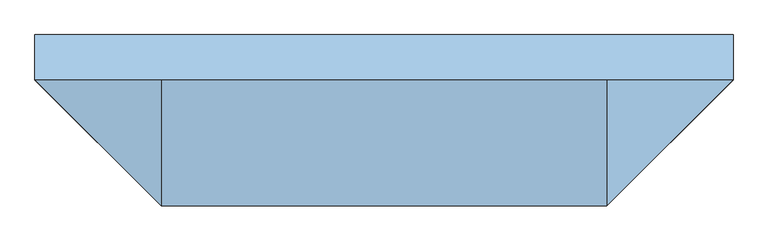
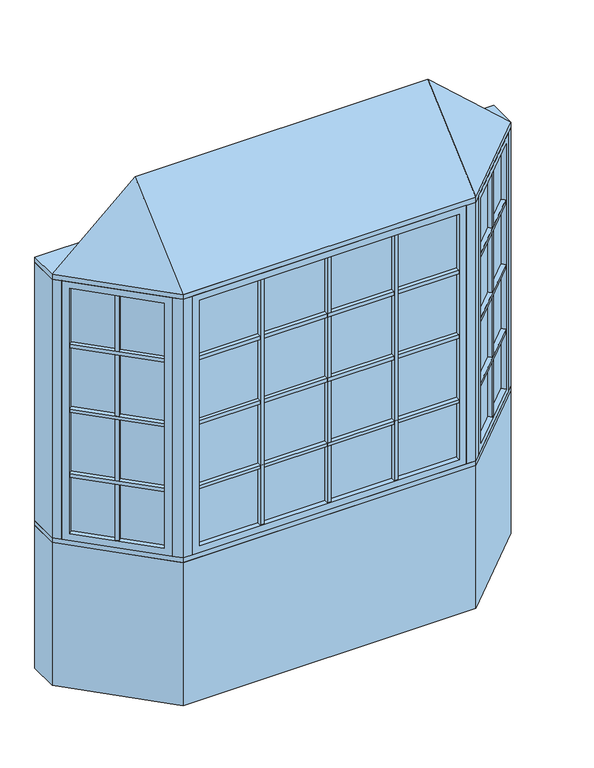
"""IFC4 building model written with IfcOpenShell, lengths in millimetres: window geometry, Pollard_Windows_Tudor Casement Bows and Bays : AML-BAY 45 AFR0614-12-500_GC."""

from ifc_helpers import new_model, si_unit, frame, origin, origin_with_axes, place, context, project, spatial, polyline, outline, extrude, faceted_brep, source, transform, mapped, element, save


def window_6308ce5a(model_context):
    return source(origin(), model_context, "Body", "SolidModel", [
        extrude(outline(polyline([(809.3614193, -437.1108753), (793.8050701, -421.5545261), (1101.616171, -113.7434252), (1117.1725202, -129.2997743), (809.3614193, -437.1108753)])), frame((0.0, 0.0, 1490.998), z_axis=(0.0, 0.0, 1.0), x_axis=(1.0, 0.0, 0.0)), (0.0, 0.0, 1.0), 18.0),
        extrude(outline(polyline([(790.2129677, -417.9624236), (774.6566185, -402.4060744), (1082.4677194, -94.5949735), (1098.0240686, -110.1513227), (790.2129677, -417.9624236)])), frame((0.0, 0.0, 1490.998), z_axis=(0.0, 0.0, 1.0), x_axis=(1.0, 0.0, 0.0)), (0.0, 0.0, 1.0), 18.0),
        extrude(outline(polyline([(809.3614193, -437.1108753), (793.8050701, -421.5545261), (1101.616171, -113.7434252), (1117.1725202, -129.2997743), (809.3614193, -437.1108753)])), frame((0.0, 0.0, 1140.998), z_axis=(0.0, 0.0, 1.0), x_axis=(1.0, 0.0, 0.0)), (0.0, 0.0, 1.0), 18.0),
        extrude(outline(polyline([(790.2129677, -417.9624236), (774.6566185, -402.4060744), (1082.4677194, -94.5949735), (1098.0240686, -110.1513227), (790.2129677, -417.9624236)])), frame((0.0, 0.0, 1140.998), z_axis=(0.0, 0.0, 1.0), x_axis=(1.0, 0.0, 0.0)), (0.0, 0.0, 1.0), 18.0),
        extrude(outline(polyline([(809.3614193, -437.1108753), (793.8050701, -421.5545261), (1101.616171, -113.7434252), (1117.1725202, -129.2997743), (809.3614193, -437.1108753)])), frame((0.0, 0.0, 1490.998), z_axis=(0.0, 0.0, 1.0), x_axis=(1.0, 0.0, 0.0)), (0.0, 0.0, 1.0), 18.0),
        extrude(outline(polyline([(790.2129677, -417.9624236), (774.6566185, -402.4060744), (1082.4677194, -94.5949735), (1098.0240686, -110.1513227), (790.2129677, -417.9624236)])), frame((0.0, 0.0, 1490.998), z_axis=(0.0, 0.0, 1.0), x_axis=(1.0, 0.0, 0.0)), (0.0, 0.0, 1.0), 18.0),
        extrude(outline(polyline([(809.3614193, -437.1108753), (793.8050701, -421.5545261), (1101.616171, -113.7434252), (1117.1725202, -129.2997743), (809.3614193, -437.1108753)])), frame((0.0, 0.0, 1490.998), z_axis=(0.0, 0.0, 1.0), x_axis=(1.0, 0.0, 0.0)), (0.0, 0.0, 1.0), 18.0),
        extrude(outline(polyline([(790.2129677, -417.9624236), (774.6566185, -402.4060744), (1082.4677194, -94.5949735), (1098.0240686, -110.1513227), (790.2129677, -417.9624236)])), frame((0.0, 0.0, 1490.998), z_axis=(0.0, 0.0, 1.0), x_axis=(1.0, 0.0, 0.0)), (0.0, 0.0, 1.0), 18.0),
        extrude(outline(polyline([(809.3614193, -437.1108753), (793.8050701, -421.5545261), (1101.616171, -113.7434252), (1117.1725202, -129.2997743), (809.3614193, -437.1108753)])), frame((0.0, 0.0, 1840.998), z_axis=(0.0, 0.0, 1.0), x_axis=(1.0, 0.0, 0.0)), (0.0, 0.0, 1.0), 18.0),
        extrude(outline(polyline([(790.2129677, -417.9624236), (774.6566185, -402.4060744), (1082.4677194, -94.5949735), (1098.0240686, -110.1513227), (790.2129677, -417.9624236)])), frame((0.0, 0.0, 1840.998), z_axis=(0.0, 0.0, 1.0), x_axis=(1.0, 0.0, 0.0)), (0.0, 0.0, 1.0), 18.0),
        extrude(outline(polyline([(954.0745816, -261.2850146), (969.6309308, -276.8413638), (956.9030087, -289.5692858), (941.3466595, -274.0129366), (954.0745816, -261.2850146)])), frame((0.0, 0.0, 835.8628), z_axis=(0.0, 0.0, 1.0), x_axis=(1.0, 0.0, 0.0)), (0.0, 0.0, 1.0), 1328.2704),
        extrude(outline(polyline([(950.4824791, -257.6929121), (937.7545571, -270.4208342), (922.1982079, -254.864485), (934.92613, -242.1365629), (950.4824791, -257.6929121)])), frame((0.0, 0.0, 835.8628), z_axis=(0.0, 0.0, 1.0), x_axis=(1.0, 0.0, 0.0)), (0.0, 0.0, 1.0), 1328.2704),
        extrude(outline(polyline([(1110.5964271, -104.763169), (784.824814, -430.5347822), (781.2327115, -426.9426797), (1107.0043247, -101.1710666), (1110.5964271, -104.763169)])), frame((0.0, 0.0, 823.1628), z_axis=(0.0, 0.0, 1.0), x_axis=(1.0, 0.0, 0.0)), (0.0, 0.0, 1.0), 1353.6704),
        faceted_brep([(1101.616171, -113.7434252, 835.8628), (1119.5766833, -131.7039374, 835.8628), (1119.5766833, -131.7039374, 2164.1332), (1101.616171, -113.7434252, 2164.1332), (1107.0043247, -101.1710666, 823.1628), (1110.5964271, -104.763169, 823.1628), (1110.5964271, -104.763169, 2176.8332), (1107.0043247, -101.1710666, 2176.8332), (1080.0635563, -92.1908105, 835.8628), (1098.0240686, -110.1513227, 835.8628), (1098.0240686, -110.1513227, 2164.1332), (1080.0635563, -92.1908105, 2164.1332), (1144.9369265, -106.3436941, 799.998), (1105.4237996, -66.8305672, 799.998), (1105.4237996, -66.8305672, 2199.998), (1144.9369265, -106.3436941, 2199.998), (811.7655823, -439.5150383, 2164.1332), (793.8050701, -421.5545261, 2164.1332), (784.824814, -430.5347822, 2176.8332), (781.2327115, -426.9426797, 2176.8332), (790.2129677, -417.9624236, 2164.1332), (772.2524554, -400.0019114, 2164.1332), (746.8922121, -425.3621547, 2199.998), (786.4053391, -464.8752816, 2199.998), (811.7655823, -439.5150383, 835.8628), (793.8050701, -421.5545261, 835.8628), (784.824814, -430.5347822, 823.1628), (781.2327115, -426.9426797, 823.1628), (790.2129677, -417.9624236, 835.8628), (772.2524554, -400.0019114, 835.8628), (746.8922121, -425.3621547, 799.998), (786.4053391, -464.8752816, 799.998)], [[[0, 1, 2, 3]], [[4, 5, 6, 7]], [[8, 9, 10, 11]], [[12, 13, 14, 15]], [[3, 2, 16, 17]], [[7, 6, 18, 19]], [[11, 10, 20, 21]], [[15, 14, 22, 23]], [[17, 16, 24, 25]], [[19, 18, 26, 27]], [[21, 20, 28, 29]], [[23, 22, 30, 31]], [[25, 24, 1, 0]], [[5, 26, 18, 6], [3, 17, 25, 0]], [[27, 26, 5, 4]], [[7, 19, 27, 4], [9, 28, 20, 10]], [[29, 28, 9, 8]], [[13, 30, 22, 14], [11, 21, 29, 8]], [[31, 30, 13, 12]], [[15, 23, 31, 12], [1, 24, 16, 2]]]),
        extrude(outline(polyline([(352.4427, -474.8306207), (352.4427, -496.8306207), (334.4427, -496.8306207), (334.4427, -474.8306207), (352.4427, -474.8306207)])), frame((0.0, 0.0, 835.8628), z_axis=(0.0, 0.0, 1.0), x_axis=(1.0, 0.0, 0.0)), (0.0, 0.0, 1.0), 1328.2704),
        extrude(outline(polyline([(352.4427, -469.7506207), (334.4427, -469.7506207), (334.4427, -447.7506207), (352.4427, -447.7506207), (352.4427, -469.7506207)])), frame((0.0, 0.0, 835.8628), z_axis=(0.0, 0.0, 1.0), x_axis=(1.0, 0.0, 0.0)), (0.0, 0.0, 1.0), 1328.2704),
        extrude(outline(polyline([(-334.4427, -474.8306207), (-334.4427, -496.8306207), (-352.4427, -496.8306207), (-352.4427, -474.8306207), (-334.4427, -474.8306207)])), frame((0.0, 0.0, 835.8628), z_axis=(0.0, 0.0, 1.0), x_axis=(1.0, 0.0, 0.0)), (0.0, 0.0, 1.0), 1328.2704),
        extrude(outline(polyline([(-334.4427, -469.7506207), (-352.4427, -469.7506207), (-352.4427, -447.7506207), (-334.4427, -447.7506207), (-334.4427, -469.7506207)])), frame((0.0, 0.0, 835.8628), z_axis=(0.0, 0.0, 1.0), x_axis=(1.0, 0.0, 0.0)), (0.0, 0.0, 1.0), 1328.2704),
        extrude(outline(polyline([(-665.1852, -496.8306207), (-665.1852, -474.8306207), (665.1852, -474.8306207), (665.1852, -496.8306207), (-665.1852, -496.8306207)])), frame((0.0, 0.0, 1140.998), z_axis=(0.0, 0.0, 1.0), x_axis=(1.0, 0.0, 0.0)), (0.0, 0.0, 1.0), 18.0),
        extrude(outline(polyline([(-665.1852, -469.7506207), (-665.1852, -447.7506207), (665.1852, -447.7506207), (665.1852, -469.7506207), (-665.1852, -469.7506207)])), frame((0.0, 0.0, 1140.998), z_axis=(0.0, 0.0, 1.0), x_axis=(1.0, 0.0, 0.0)), (0.0, 0.0, 1.0), 18.0),
        extrude(outline(polyline([(-665.1852, -496.8306207), (-665.1852, -474.8306207), (665.1852, -474.8306207), (665.1852, -496.8306207), (-665.1852, -496.8306207)])), frame((0.0, 0.0, 1490.998), z_axis=(0.0, 0.0, 1.0), x_axis=(1.0, 0.0, 0.0)), (0.0, 0.0, 1.0), 18.0),
        extrude(outline(polyline([(-665.1852, -469.7506207), (-665.1852, -447.7506207), (665.1852, -447.7506207), (665.1852, -469.7506207), (-665.1852, -469.7506207)])), frame((0.0, 0.0, 1490.998), z_axis=(0.0, 0.0, 1.0), x_axis=(1.0, 0.0, 0.0)), (0.0, 0.0, 1.0), 18.0),
        extrude(outline(polyline([(-665.1852, -496.8306207), (-665.1852, -474.8306207), (665.1852, -474.8306207), (665.1852, -496.8306207), (-665.1852, -496.8306207)])), frame((0.0, 0.0, 1490.998), z_axis=(0.0, 0.0, 1.0), x_axis=(1.0, 0.0, 0.0)), (0.0, 0.0, 1.0), 18.0),
        extrude(outline(polyline([(-665.1852, -469.7506207), (-665.1852, -447.7506207), (665.1852, -447.7506207), (665.1852, -469.7506207), (-665.1852, -469.7506207)])), frame((0.0, 0.0, 1490.998), z_axis=(0.0, 0.0, 1.0), x_axis=(1.0, 0.0, 0.0)), (0.0, 0.0, 1.0), 18.0),
        extrude(outline(polyline([(-665.1852, -496.8306207), (-665.1852, -474.8306207), (665.1852, -474.8306207), (665.1852, -496.8306207), (-665.1852, -496.8306207)])), frame((0.0, 0.0, 1490.998), z_axis=(0.0, 0.0, 1.0), x_axis=(1.0, 0.0, 0.0)), (0.0, 0.0, 1.0), 18.0),
        extrude(outline(polyline([(-665.1852, -469.7506207), (-665.1852, -447.7506207), (665.1852, -447.7506207), (665.1852, -469.7506207), (-665.1852, -469.7506207)])), frame((0.0, 0.0, 1490.998), z_axis=(0.0, 0.0, 1.0), x_axis=(1.0, 0.0, 0.0)), (0.0, 0.0, 1.0), 18.0),
        extrude(outline(polyline([(-1117.1725202, -129.2997743), (-1101.616171, -113.7434252), (-793.8050701, -421.5545261), (-809.3614193, -437.1108753), (-1117.1725202, -129.2997743)])), frame((0.0, 0.0, 1140.998), z_axis=(0.0, 0.0, 1.0), x_axis=(1.0, 0.0, 0.0)), (0.0, 0.0, 1.0), 18.0),
        extrude(outline(polyline([(-1098.0240686, -110.1513227), (-1082.4677194, -94.5949735), (-774.6566185, -402.4060744), (-790.2129677, -417.9624236), (-1098.0240686, -110.1513227)])), frame((0.0, 0.0, 1140.998), z_axis=(0.0, 0.0, 1.0), x_axis=(1.0, 0.0, 0.0)), (0.0, 0.0, 1.0), 18.0),
        extrude(outline(polyline([(-1117.1725202, -129.2997743), (-1101.616171, -113.7434252), (-793.8050701, -421.5545261), (-809.3614193, -437.1108753), (-1117.1725202, -129.2997743)])), frame((0.0, 0.0, 1490.998), z_axis=(0.0, 0.0, 1.0), x_axis=(1.0, 0.0, 0.0)), (0.0, 0.0, 1.0), 18.0),
        extrude(outline(polyline([(-1098.0240686, -110.1513227), (-1082.4677194, -94.5949735), (-774.6566185, -402.4060744), (-790.2129677, -417.9624236), (-1098.0240686, -110.1513227)])), frame((0.0, 0.0, 1490.998), z_axis=(0.0, 0.0, 1.0), x_axis=(1.0, 0.0, 0.0)), (0.0, 0.0, 1.0), 18.0),
        extrude(outline(polyline([(-1117.1725202, -129.2997743), (-1101.616171, -113.7434252), (-793.8050701, -421.5545261), (-809.3614193, -437.1108753), (-1117.1725202, -129.2997743)])), frame((0.0, 0.0, 1490.998), z_axis=(0.0, 0.0, 1.0), x_axis=(1.0, 0.0, 0.0)), (0.0, 0.0, 1.0), 18.0),
        extrude(outline(polyline([(-1098.0240686, -110.1513227), (-1082.4677194, -94.5949735), (-774.6566185, -402.4060744), (-790.2129677, -417.9624236), (-1098.0240686, -110.1513227)])), frame((0.0, 0.0, 1490.998), z_axis=(0.0, 0.0, 1.0), x_axis=(1.0, 0.0, 0.0)), (0.0, 0.0, 1.0), 18.0),
        extrude(outline(polyline([(-1117.1725202, -129.2997743), (-1101.616171, -113.7434252), (-793.8050701, -421.5545261), (-809.3614193, -437.1108753), (-1117.1725202, -129.2997743)])), frame((0.0, 0.0, 1490.998), z_axis=(0.0, 0.0, 1.0), x_axis=(1.0, 0.0, 0.0)), (0.0, 0.0, 1.0), 18.0),
        extrude(outline(polyline([(-1098.0240686, -110.1513227), (-1082.4677194, -94.5949735), (-774.6566185, -402.4060744), (-790.2129677, -417.9624236), (-1098.0240686, -110.1513227)])), frame((0.0, 0.0, 1490.998), z_axis=(0.0, 0.0, 1.0), x_axis=(1.0, 0.0, 0.0)), (0.0, 0.0, 1.0), 18.0),
        extrude(outline(polyline([(-1117.1725202, -129.2997743), (-1101.616171, -113.7434252), (-793.8050701, -421.5545261), (-809.3614193, -437.1108753), (-1117.1725202, -129.2997743)])), frame((0.0, 0.0, 1840.998), z_axis=(0.0, 0.0, 1.0), x_axis=(1.0, 0.0, 0.0)), (0.0, 0.0, 1.0), 18.0),
        extrude(outline(polyline([(-1098.0240686, -110.1513227), (-1082.4677194, -94.5949735), (-774.6566185, -402.4060744), (-790.2129677, -417.9624236), (-1098.0240686, -110.1513227)])), frame((0.0, 0.0, 1840.998), z_axis=(0.0, 0.0, 1.0), x_axis=(1.0, 0.0, 0.0)), (0.0, 0.0, 1.0), 18.0),
        extrude(outline(polyline([(-665.1852, -496.8306207), (-665.1852, -474.8306207), (665.1852, -474.8306207), (665.1852, -496.8306207), (-665.1852, -496.8306207)])), frame((0.0, 0.0, 1840.998), z_axis=(0.0, 0.0, 1.0), x_axis=(1.0, 0.0, 0.0)), (0.0, 0.0, 1.0), 18.0),
        extrude(outline(polyline([(-665.1852, -469.7506207), (-665.1852, -447.7506207), (665.1852, -447.7506207), (665.1852, -469.7506207), (-665.1852, -469.7506207)])), frame((0.0, 0.0, 1840.998), z_axis=(0.0, 0.0, 1.0), x_axis=(1.0, 0.0, 0.0)), (0.0, 0.0, 1.0), 18.0),
        extrude(outline(polyline([(-941.3466595, -274.0129366), (-956.9030087, -289.5692858), (-969.6309308, -276.8413638), (-954.0745816, -261.2850146), (-941.3466595, -274.0129366)])), frame((0.0, 0.0, 835.8628), z_axis=(0.0, 0.0, 1.0), x_axis=(1.0, 0.0, 0.0)), (0.0, 0.0, 1.0), 1328.2704),
        extrude(outline(polyline([(-937.7545571, -270.4208342), (-950.4824791, -257.6929121), (-934.92613, -242.1365629), (-922.1982079, -254.864485), (-937.7545571, -270.4208342)])), frame((0.0, 0.0, 835.8628), z_axis=(0.0, 0.0, 1.0), x_axis=(1.0, 0.0, 0.0)), (0.0, 0.0, 1.0), 1328.2704),
        extrude(outline(polyline([(9.0, -474.8306207), (9.0, -496.8306207), (-9.0, -496.8306207), (-9.0, -474.8306207), (9.0, -474.8306207)])), frame((0.0, 0.0, 835.8628), z_axis=(0.0, 0.0, 1.0), x_axis=(1.0, 0.0, 0.0)), (0.0, 0.0, 1.0), 1328.2704),
        extrude(outline(polyline([(9.0, -469.7506207), (-9.0, -469.7506207), (-9.0, -447.7506207), (9.0, -447.7506207), (9.0, -469.7506207)])), frame((0.0, 0.0, 835.8628), z_axis=(0.0, 0.0, 1.0), x_axis=(1.0, 0.0, 0.0)), (0.0, 0.0, 1.0), 1328.2704),
        extrude(outline(polyline([(-784.824814, -430.5347822), (-1110.5964271, -104.763169), (-1107.0043247, -101.1710666), (-781.2327115, -426.9426797), (-784.824814, -430.5347822)])), frame((0.0, 0.0, 823.1628), z_axis=(0.0, 0.0, 1.0), x_axis=(1.0, 0.0, 0.0)), (0.0, 0.0, 1.0), 1353.6704),
        faceted_brep([(-790.2129677, -417.9624236, 2164.1332), (-772.2524554, -400.0019114, 2164.1332), (-772.2524554, -400.0019114, 835.8628), (-790.2129677, -417.9624236, 835.8628), (-784.824814, -430.5347822, 2176.8332), (-781.2327115, -426.9426797, 2176.8332), (-781.2327115, -426.9426797, 823.1628), (-784.824814, -430.5347822, 823.1628), (-811.7655823, -439.5150383, 2164.1332), (-793.8050701, -421.5545261, 2164.1332), (-793.8050701, -421.5545261, 835.8628), (-811.7655823, -439.5150383, 835.8628), (-746.8922121, -425.3621547, 2199.998), (-786.4053391, -464.8752816, 2199.998), (-786.4053391, -464.8752816, 799.998), (-746.8922121, -425.3621547, 799.998), (-1080.0635563, -92.1908105, 835.8628), (-1098.0240686, -110.1513227, 835.8628), (-1107.0043247, -101.1710666, 823.1628), (-1110.5964271, -104.763169, 823.1628), (-1101.616171, -113.7434252, 835.8628), (-1119.5766833, -131.7039374, 835.8628), (-1144.9369265, -106.3436941, 799.998), (-1105.4237996, -66.8305672, 799.998), (-1080.0635563, -92.1908105, 2164.1332), (-1098.0240686, -110.1513227, 2164.1332), (-1107.0043247, -101.1710666, 2176.8332), (-1110.5964271, -104.763169, 2176.8332), (-1101.616171, -113.7434252, 2164.1332), (-1119.5766833, -131.7039374, 2164.1332), (-1144.9369265, -106.3436941, 2199.998), (-1105.4237996, -66.8305672, 2199.998)], [[[0, 1, 2, 3]], [[4, 5, 6, 7]], [[8, 9, 10, 11]], [[12, 13, 14, 15]], [[3, 2, 16, 17]], [[7, 6, 18, 19]], [[11, 10, 20, 21]], [[15, 14, 22, 23]], [[17, 16, 24, 25]], [[19, 18, 26, 27]], [[21, 20, 28, 29]], [[23, 22, 30, 31]], [[15, 23, 31, 12], [1, 24, 16, 2]], [[25, 24, 1, 0]], [[5, 26, 18, 6], [3, 17, 25, 0]], [[27, 26, 5, 4]], [[7, 19, 27, 4], [9, 28, 20, 10]], [[29, 28, 9, 8]], [[13, 30, 22, 14], [11, 21, 29, 8]], [[31, 30, 13, 12]]]),
        extrude(outline(polyline([(677.8852, -474.8306207), (-677.8852, -474.8306207), (-677.8852, -469.7506207), (677.8852, -469.7506207), (677.8852, -474.8306207)])), frame((0.0, 0.0, 823.1628), z_axis=(0.0, 0.0, 1.0), x_axis=(1.0, 0.0, 0.0)), (0.0, 0.0, 1.0), 1353.6704),
        faceted_brep([(665.1852, -474.8306207, 835.8628), (665.1852, -500.2306207, 835.8628), (665.1852, -500.2306207, 2164.1332), (665.1852, -474.8306207, 2164.1332), (677.8852, -469.7506207, 823.1628), (677.8852, -474.8306207, 823.1628), (677.8852, -474.8306207, 2176.8332), (677.8852, -469.7506207, 2176.8332), (665.1852, -444.3506207, 835.8628), (665.1852, -469.7506207, 835.8628), (665.1852, -469.7506207, 2164.1332), (665.1852, -444.3506207, 2164.1332), (701.05, -500.2306207, 799.998), (701.05, -444.3506207, 799.998), (701.05, -444.3506207, 2199.998), (701.05, -500.2306207, 2199.998), (-665.1852, -500.2306207, 2164.1332), (-665.1852, -474.8306207, 2164.1332), (-677.8852, -474.8306207, 2176.8332), (-677.8852, -469.7506207, 2176.8332), (-665.1852, -469.7506207, 2164.1332), (-665.1852, -444.3506207, 2164.1332), (-701.05, -444.3506207, 2199.998), (-701.05, -500.2306207, 2199.998), (-665.1852, -500.2306207, 835.8628), (-665.1852, -474.8306207, 835.8628), (-677.8852, -474.8306207, 823.1628), (-677.8852, -469.7506207, 823.1628), (-665.1852, -469.7506207, 835.8628), (-665.1852, -444.3506207, 835.8628), (-701.05, -444.3506207, 799.998), (-701.05, -500.2306207, 799.998)], [[[0, 1, 2, 3]], [[4, 5, 6, 7]], [[8, 9, 10, 11]], [[12, 13, 14, 15]], [[3, 2, 16, 17]], [[7, 6, 18, 19]], [[11, 10, 20, 21]], [[15, 14, 22, 23]], [[17, 16, 24, 25]], [[19, 18, 26, 27]], [[21, 20, 28, 29]], [[23, 22, 30, 31]], [[15, 23, 31, 12], [1, 24, 16, 2]], [[25, 24, 1, 0]], [[5, 26, 18, 6], [3, 17, 25, 0]], [[27, 26, 5, 4]], [[7, 19, 27, 4], [9, 28, 20, 10]], [[29, 28, 9, 8]], [[13, 30, 22, 14], [11, 21, 29, 8]], [[31, 30, 13, 12]]]),
        faceted_brep([(1176.5, -74.7806207, 2225.398), (751.05, -500.2306207, 2225.398), (-751.05, -500.2306207, 2225.398), (-1176.5, -74.7806207, 2225.398), (-751.05, -74.7806207, 2606.398), (751.05, -74.7806207, 2606.398)], [[[0, 1, 2, 3]], [[3, 2, 4]], [[2, 1, 5, 4]], [[1, 0, 5]], [[0, 3, 4, 5]]]),
        extrude(outline(polyline([(-1176.5, 77.6193793), (1176.5, 77.6193793), (1176.5, -74.7806207), (751.05, -500.2306207), (-751.05, -500.2306207), (-1176.5, -74.7806207), (-1176.5, 77.6193793)])), frame((0.0, 0.0, 2199.998), z_axis=(0.0, 0.0, 1.0), x_axis=(1.0, 0.0, 0.0)), (0.0, 0.0, 1.0), 25.4),
        extrude(outline(polyline([(-1176.5, -74.7806207), (-1176.5, 77.6193793), (-1113.3738531, 77.6193793), (-1113.3738531, -74.7806207), (-1144.9369265, -106.3436941), (-1176.5, -74.7806207)])), frame((0.0, 0.0, 799.998), z_axis=(0.0, 0.0, 1.0), x_axis=(1.0, 0.0, 0.0)), (0.0, 0.0, 1.0), 1400.0),
        extrude(outline(polyline([(1176.5, 77.6193793), (1176.5, -74.7806207), (1144.9369265, -106.3436941), (1113.3738531, -74.7806207), (1113.3738531, 77.6193793), (1176.5, 77.6193793)])), frame((0.0, 0.0, 799.998), z_axis=(0.0, 0.0, 1.0), x_axis=(1.0, 0.0, 0.0)), (0.0, 0.0, 1.0), 1400.0),
        extrude(outline(polyline([(751.05, -500.2306207), (701.05, -500.2306207), (701.05, -450.2306207), (730.3393219, -450.2306207), (751.05, -429.5199425), (786.4053391, -464.8752816), (751.05, -500.2306207)])), frame((0.0, 0.0, 799.998), z_axis=(0.0, 0.0, 1.0), x_axis=(1.0, 0.0, 0.0)), (0.0, 0.0, 1.0), 1400.0),
        extrude(outline(polyline([(-751.05, -500.2306207), (-786.4053391, -464.8752816), (-751.05, -429.5199425), (-730.3393219, -450.2306207), (-701.05, -450.2306207), (-701.05, -500.2306207), (-751.05, -500.2306207)])), frame((0.0, 0.0, 799.998), z_axis=(0.0, 0.0, 1.0), x_axis=(1.0, 0.0, 0.0)), (0.0, 0.0, 1.0), 1400.0),
        extrude(outline(polyline([(-751.05, -500.2306207), (-1176.5, -74.7806207), (-1176.5, 77.6193793), (-1113.3738531, 77.6193793), (-687.9238531, -347.8306207), (687.9238531, -347.8306207), (1113.3738531, 77.6193793), (1176.5, 77.6193793), (1176.5, -74.7806207), (751.05, -500.2306207), (-751.05, -500.2306207)])), frame((0.0, 0.0, 774.598), z_axis=(0.0, 0.0, 1.0), x_axis=(1.0, 0.0, 0.0)), (0.0, 0.0, 1.0), 25.4),
        extrude(outline(polyline([(-1176.5, -74.7806207), (-1176.5, 77.6193793), (-1113.3738531, 77.6193793), (-687.9238531, -347.8306207), (687.9238531, -347.8306207), (1113.3738531, 77.6193793), (1176.5, 77.6193793), (1176.5, -74.7806207), (751.05, -500.2306207), (-751.05, -500.2306207), (-1176.5, -74.7806207)])), origin_with_axes(), (0.0, 0.0, 1.0), 774.598),
    ])


if __name__ == "__main__":
    model = new_model("IFC4")
    model_context = context("Model", 3, world=origin())
    ifc_project = project(units=[si_unit("LENGTHUNIT", "METRE", prefix="MILLI")], contexts=[model_context])
    site = spatial("IfcSite", under=ifc_project)
    building = spatial("IfcBuilding", under=site)
    placement = place(None, origin())
    window_shape = window_6308ce5a(model_context)
    element("IfcWindow", 1, ObjectType="Pollard_Windows_Tudor Casement Bows and Bays : AML-BAY 45 AFR0614-12-500_GC", at=placement, inside=building, context=model_context, shape_type="MappedRepresentation", body=[
        mapped(window_shape, transform((0.0, 0.0, 0.0), x_axis=(1.0, 0.0, 0.0), y_axis=(0.0, 1.0, 0.0), z_axis=(0.0, 0.0, 1.0))),
    ])
    save(model, "model.ifc")
